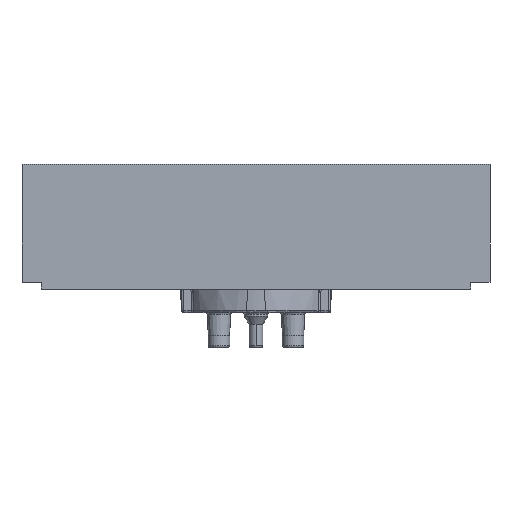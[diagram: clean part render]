
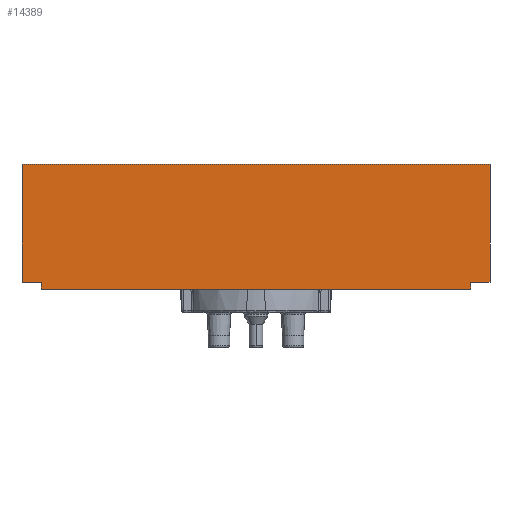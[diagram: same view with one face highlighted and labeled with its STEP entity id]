
A CAD part, front view. The second image highlights one B-rep face of the part: STEP entity #14389.
In plain terms, the highlighted planar face has unit normal (0, -1, 0).
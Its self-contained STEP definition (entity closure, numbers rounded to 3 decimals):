
#226 = DIRECTION ( 'NONE',  ( 0., 0., -1. ) ) ;
#983 = VECTOR ( 'NONE', #16314, 1000. ) ;
#1291 = VERTEX_POINT ( 'NONE', #9633 ) ;
#1332 = CARTESIAN_POINT ( 'NONE',  ( -55., -60., -10.25 ) ) ;
#1486 = CARTESIAN_POINT ( 'NONE',  ( -60., -60., 20. ) ) ;
#1631 = CARTESIAN_POINT ( 'NONE',  ( -60., -60., 20. ) ) ;
#1674 = VERTEX_POINT ( 'NONE', #15654 ) ;
#1844 = EDGE_CURVE ( 'NONE', #1674, #2757, #21827, .T. ) ;
#2224 = EDGE_CURVE ( 'NONE', #16757, #19891, #11948, .T. ) ;
#2496 = LINE ( 'NONE', #9400, #983 ) ;
#2757 = VERTEX_POINT ( 'NONE', #19142 ) ;
#3093 = AXIS2_PLACEMENT_3D ( 'NONE', #21042, #5515, #12440 ) ;
#4052 = LINE ( 'NONE', #10975, #9456 ) ;
#4376 = VECTOR ( 'NONE', #6703, 1000. ) ;
#4459 = ORIENTED_EDGE ( 'NONE', *, *, #18486, .F. ) ;
#4639 = EDGE_CURVE ( 'NONE', #1291, #1674, #17277, .T. ) ;
#5515 = DIRECTION ( 'NONE',  ( 0., 1., 0. ) ) ;
#6314 = CARTESIAN_POINT ( 'NONE',  ( 60., -60., -10.25 ) ) ;
#6703 = DIRECTION ( 'NONE',  ( -1., 0., 0. ) ) ;
#6967 = CARTESIAN_POINT ( 'NONE',  ( 60., -60., 20. ) ) ;
#7070 = ORIENTED_EDGE ( 'NONE', *, *, #4639, .F. ) ;
#7221 = FACE_OUTER_BOUND ( 'NONE', #12323, .T. ) ;
#8181 = EDGE_CURVE ( 'NONE', #16757, #1291, #2496, .T. ) ;
#8254 = DIRECTION ( 'NONE',  ( 0., 0., -1. ) ) ;
#8549 = DIRECTION ( 'NONE',  ( 0., 0., -1. ) ) ;
#8848 = LINE ( 'NONE', #15759, #16714 ) ;
#9400 = CARTESIAN_POINT ( 'NONE',  ( -60., -60., 20. ) ) ;
#9456 = VECTOR ( 'NONE', #17876, 1000. ) ;
#9633 = CARTESIAN_POINT ( 'NONE',  ( 60., -60., 20. ) ) ;
#10704 = VECTOR ( 'NONE', #8254, 1000. ) ;
#10975 = CARTESIAN_POINT ( 'NONE',  ( -60., -60., -10.25 ) ) ;
#11948 = LINE ( 'NONE', #1631, #20196 ) ;
#12323 = EDGE_LOOP ( 'NONE', ( #20043, #4459, #13080, #7070, #22328, #12844, #16037, #21011 ) ) ;
#12332 = CARTESIAN_POINT ( 'NONE',  ( -60., -60., -10.25 ) ) ;
#12440 = DIRECTION ( 'NONE',  ( 1., 0., 0. ) ) ;
#12664 = CARTESIAN_POINT ( 'NONE',  ( -55., -60., -10.25 ) ) ;
#12844 = ORIENTED_EDGE ( 'NONE', *, *, #2224, .T. ) ;
#13080 = ORIENTED_EDGE ( 'NONE', *, *, #1844, .F. ) ;
#13229 = DIRECTION ( 'NONE',  ( -1., 0., 0. ) ) ;
#13875 = DIRECTION ( 'NONE',  ( 0., 0., -1. ) ) ;
#13970 = VERTEX_POINT ( 'NONE', #15419 ) ;
#14135 = PLANE ( 'NONE',  #3093 ) ;
#14293 = EDGE_CURVE ( 'NONE', #21036, #13970, #16862, .T. ) ;
#14389 = ADVANCED_FACE ( 'NONE', ( #7221 ), #14135, .F. ) ;
#14413 = VECTOR ( 'NONE', #13229, 1000. ) ;
#15325 = LINE ( 'NONE', #22209, #4376 ) ;
#15419 = CARTESIAN_POINT ( 'NONE',  ( -55., -60., -12. ) ) ;
#15654 = CARTESIAN_POINT ( 'NONE',  ( 60., -60., -10.25 ) ) ;
#15759 = CARTESIAN_POINT ( 'NONE',  ( 55., -60., -10.25 ) ) ;
#15798 = VERTEX_POINT ( 'NONE', #21861 ) ;
#15825 = EDGE_CURVE ( 'NONE', #15798, #13970, #15325, .T. ) ;
#16037 = ORIENTED_EDGE ( 'NONE', *, *, #17471, .F. ) ;
#16314 = DIRECTION ( 'NONE',  ( 1., 0., 0. ) ) ;
#16714 = VECTOR ( 'NONE', #226, 1000. ) ;
#16757 = VERTEX_POINT ( 'NONE', #1486 ) ;
#16862 = LINE ( 'NONE', #1332, #10704 ) ;
#17277 = LINE ( 'NONE', #6967, #21941 ) ;
#17471 = EDGE_CURVE ( 'NONE', #21036, #19891, #4052, .T. ) ;
#17876 = DIRECTION ( 'NONE',  ( -1., 0., 0. ) ) ;
#18486 = EDGE_CURVE ( 'NONE', #2757, #15798, #8848, .T. ) ;
#19142 = CARTESIAN_POINT ( 'NONE',  ( 55., -60., -10.25 ) ) ;
#19891 = VERTEX_POINT ( 'NONE', #12332 ) ;
#20043 = ORIENTED_EDGE ( 'NONE', *, *, #15825, .F. ) ;
#20196 = VECTOR ( 'NONE', #8549, 1000. ) ;
#21011 = ORIENTED_EDGE ( 'NONE', *, *, #14293, .T. ) ;
#21036 = VERTEX_POINT ( 'NONE', #12664 ) ;
#21042 = CARTESIAN_POINT ( 'NONE',  ( -60., -60., 20. ) ) ;
#21827 = LINE ( 'NONE', #6314, #14413 ) ;
#21861 = CARTESIAN_POINT ( 'NONE',  ( 55., -60., -12. ) ) ;
#21941 = VECTOR ( 'NONE', #13875, 1000. ) ;
#22209 = CARTESIAN_POINT ( 'NONE',  ( 60., -60., -12. ) ) ;
#22328 = ORIENTED_EDGE ( 'NONE', *, *, #8181, .F. ) ;
